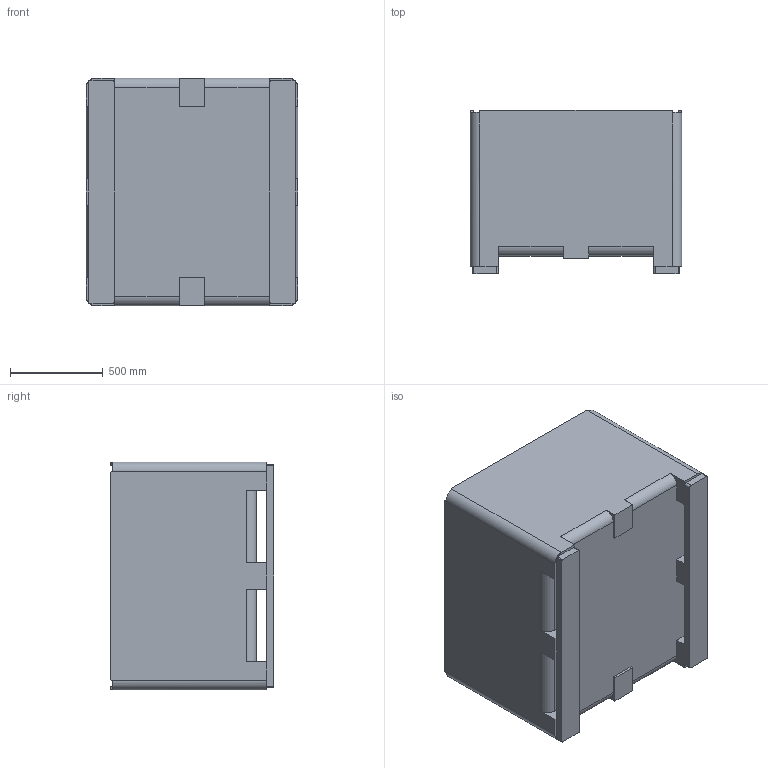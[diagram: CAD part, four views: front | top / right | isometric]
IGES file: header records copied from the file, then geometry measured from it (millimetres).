
Start section: SolidWorks IGES file using analytic representation for surfaces
Global section: file name: C:\Users\bconder\Documents\Production Models\ProBins\Solid Wall\34S\34S Block Model.IGS; native system: SolidWorks 2013; preprocessor: SolidWorks 2013; author: bconder; date: 130603.113413; units: inch
Bounding box: 1136.65 x 879.48 x 1225.55 mm (x, y, z)
Surface area: 10316914.4 mm2 (no closed solid volume)
Topology: 0 solids, 0 shells, 99 faces, 1240 edges, 1240 vertices
Faces by surface type: bspline 67, revolution 32
